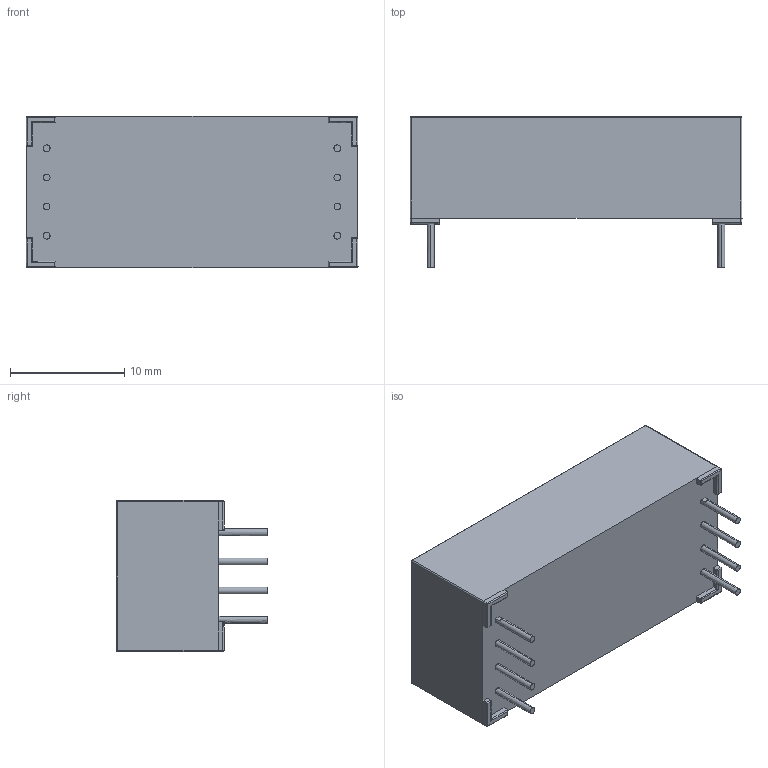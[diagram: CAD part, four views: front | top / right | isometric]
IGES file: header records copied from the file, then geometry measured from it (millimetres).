
Start section: SolidWorks IGES file using analytic representation for surfaces
Global section: file name: T:\Relays in Solidworks\Batch 3\88-3-A.IGS; native system: SolidWorks 2009; preprocessor: SolidWorks 2009; author: alex.leming; date: 100629.143916; units: millimetre
Bounding box: 29 x 13.2 x 13.2 mm (x, y, z)
Surface area: 1594.6 mm2 (no closed solid volume)
Topology: 0 solids, 0 shells, 774 faces, 7923 edges, 7918 vertices
Faces by surface type: bspline 714, revolution 60
